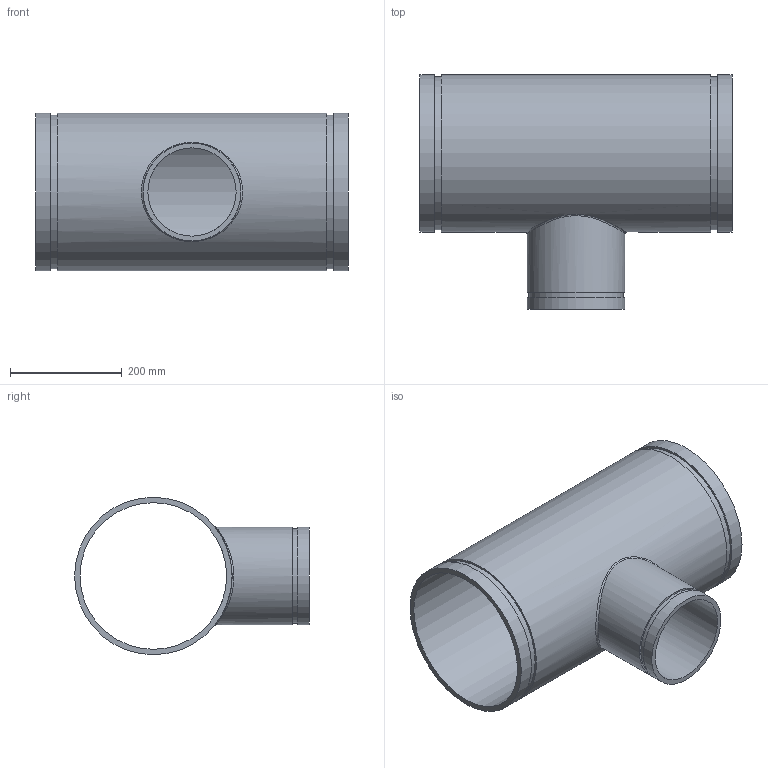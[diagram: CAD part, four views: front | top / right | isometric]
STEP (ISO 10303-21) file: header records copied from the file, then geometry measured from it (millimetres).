
FILE_DESCRIPTION(/* description */ ('VIC REDUCING TEE No 25-C','CAx-IF Rec.Pracs.---Representation and Presentation of Product Manufacturing Information (PMI)---4.0---2014-10-13'),/* implementation_level */ '2;1');
FILE_NAME(/* name */ 'C:\Users\Vjadhav\AppData\Roaming\Autodesk\ApplicationPlugins\Back Up\Victaulic_AWWA_Tee Reducing_No 25-C (DRG)\Victaulic_AWWA_Tee Reducing_No 25-C (DRG)_10.0x06.0 (250x150).stp',/* time_stamp */ '2020-08-18T18:17:52+06:00',/* author */ ('CORINNE GRAY'),/* organization */ ('Victaulic'),/* preprocessor_version */ 'ST-DEVELOPER v17.2',/* originating_system */ 'Autodesk Inventor 2019',/* authorisation */ '');
FILE_SCHEMA (('AP242_MANAGED_MODEL_BASED_3D_ENGINEERING_MIM_LF { 1 0 10303 442 1 1 4 }'));
Length unit declared in the file: inch
Products named in the file (1): 25C-10.0x06.0
Bounding box: 558.8 x 420.37 x 281.94 mm (x, y, z)
Volume: 5005147.9 mm3; surface area: 1110091.7 mm2
Topology: 1 solids, 1 shells, 20 faces, 44 edges, 33 vertices
Faces by surface type: cylinder 10, plane 9, bspline 1
Full cylindrical faces by diameter (mm): 157.988 x1, 169.062 x1, 175.26 x2, 262.636 x1, 274.65 x2, 281.94 x3
Entity records: 1017 total; most frequent: CARTESIAN_POINT 393, DIRECTION 135, ORIENTED_EDGE 90, AXIS2_PLACEMENT_3D 62, EDGE_CURVE 45, VERTEX_POINT 34, EDGE_LOOP 31, CIRCLE 29
